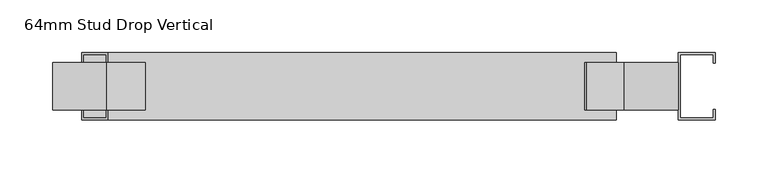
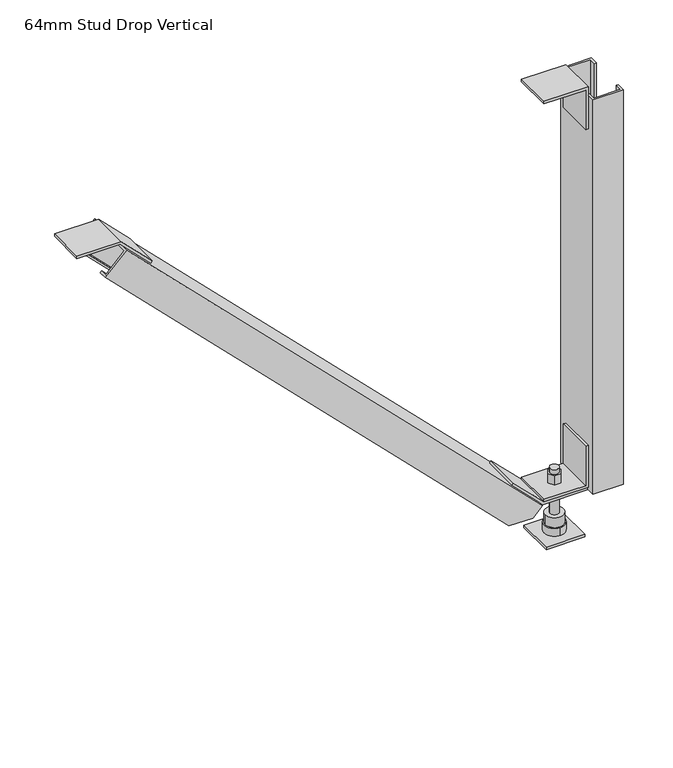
"""IFC4 building model written with IfcOpenShell, lengths in millimetres: beam geometry, Vertibrace Standard Brace : 64mm Stud Drop Vertical."""

from ifc_helpers import new_model, si_unit, frame, origin, origin_with_axes, place, context, project, spatial, polyline, circle_curve, outline, extrude, faceted_brep, source, transform, mapped, element, save
from ifc_brep_helpers import plane_surface, cylinder_surface, advanced_brep


def beam_64mm_stud_drop_vertical_b8a65905(model_context):
    return source(origin(), model_context, "Body", "SolidModel", [
        extrude(outline(polyline([(547.0013294, 23.235654), (498.7734408, 23.235654), (498.7734408, 26.2343246), (550.0, 26.2343246), (550.0, -24.9922346), (547.0013294, -24.9922346), (547.0013294, 23.235654)])), frame((0.0, -22.5, 0.0), z_axis=(0.0, 1.0, 0.0), x_axis=(0.0, 0.0, 1.0)), (0.0, 0.0, 1.0), 45.0),
        extrude(outline(polyline([(547.0013294, -516.535654), (511.6569723, -481.1912969), (513.7773526, -479.0709166), (550.0, -515.293564), (550.0, -566.5201232), (547.0013294, -566.5201232), (547.0013294, -516.535654)])), frame((0.0, -22.5, 0.0), z_axis=(0.0, 1.0, 0.0), x_axis=(0.0, 0.0, 1.0)), (0.0, 0.0, 1.0), 45.0),
        extrude(outline(polyline([(62.6986706, 23.235654), (62.6986706, -24.9922346), (59.7, -24.9922346), (59.7, 26.2343246), (110.9265592, 26.2343246), (110.9265592, 23.235654), (62.6986706, 23.235654)])), frame((0.0, -22.5, 0.0), z_axis=(0.0, 1.0, 0.0), x_axis=(0.0, 0.0, 1.0)), (0.0, 0.0, 1.0), 45.0),
        extrude(outline(polyline([(59.6986706, -24.9922346), (95.0430277, -60.3365917), (92.9226474, -62.456972), (56.7, -26.2343246), (56.7, 24.9922346), (59.6986706, 24.9922346), (59.6986706, -24.9922346)])), frame((0.0, -22.5, 0.0), z_axis=(0.0, 1.0, 0.0), x_axis=(0.0, 0.0, 1.0)), (0.0, 0.0, 1.0), 45.0),
        extrude(outline(polyline([(22.5, 22.5), (22.5, -22.5), (-22.5, -22.5), (-22.5, 22.5), (22.5, 22.5)])), origin_with_axes(), (0.0, 0.0, 1.0), 3.0),
        advanced_brep(
        [(-5.0, 0.0, -10.0), (5.0, 0.0, -10.0), (-5.0, 0.0, 80.0), (5.0, 0.0, 80.0), (5.0, 0.0, 3.0), (-5.0, 0.0, 3.0), (-5.0, 0.0, 74.4), (5.0, 0.0, 74.4), (-5.0, 0.0, 25.0), (5.0, 0.0, 25.0), (5.0, 0.0, 50.0), (-5.0, 0.0, 50.0), (5.0, 0.0, 62.7), (-5.0, 0.0, 62.7), (-5.0, 0.0, 56.7), (5.0, 0.0, 56.7), (-10.5, 0.0, 25.0), (10.5, 0.0, 25.0), (-10.5, 0.0, 13.0), (10.5, 0.0, 13.0), (0.0, -12.0, 13.0), (0.0, 12.0, 13.0), (3.75, 6.4951905, 74.4), (-3.75, 6.4951905, 74.4), (-7.5, 0.0, 74.4), (-3.75, -6.4951905, 74.4), (3.75, -6.4951905, 74.4), (7.5, 0.0, 74.4), (3.75, 6.4951905, 62.7), (7.5, 0.0, 62.7), (3.75, -6.4951905, 62.7), (-3.75, -6.4951905, 62.7), (-7.5, 0.0, 62.7), (-3.75, 6.4951905, 62.7), (-10.9696551, 0.0, 56.7), (-5.4848276, -9.5, 56.7), (5.4848276, -9.5, 56.7), (10.9696551, 0.0, 56.7), (5.4848276, 9.5, 56.7), (-5.4848276, 9.5, 56.7), (-10.9696551, 0.0, 50.0), (-5.4848276, 9.5, 50.0), (5.4848276, 9.5, 50.0), (10.9696551, 0.0, 50.0), (5.4848276, -9.5, 50.0), (-5.4848276, -9.5, 50.0), (0.0, -12.0, 3.0), (0.0, 12.0, 3.0)],
        [
            (0, 1, circle_curve(frame((0.0, 0.0, -10.0), z_axis=(0.0, 0.0, -1.0), x_axis=(1.0, 0.0, 0.0)), 5.0)),
            (1, 0, circle_curve(frame((0.0, 0.0, -10.0), z_axis=(0.0, 0.0, -1.0), x_axis=(1.0, 0.0, 0.0)), 5.0)),
            (2, 3, circle_curve(frame((0.0, 0.0, 80.0), z_axis=(0.0, 0.0, 1.0), x_axis=(1.0, 0.0, 0.0)), 5.0)),
            (3, 2, circle_curve(frame((0.0, 0.0, 80.0), z_axis=(0.0, 0.0, 1.0), x_axis=(1.0, 0.0, 0.0)), 5.0)),
            (1, 4),
            (4, 5, circle_curve(frame((0.0, 0.0, 3.0), z_axis=(0.0, 0.0, -1.0), x_axis=(1.0, 0.0, 0.0)), 5.0)),
            (5, 0),
            (2, 6),
            (6, 7, circle_curve(frame((0.0, 0.0, 74.4), z_axis=(0.0, 0.0, 1.0), x_axis=(1.0, 0.0, 0.0)), 5.0)),
            (7, 3),
            (8, 9, circle_curve(frame((0.0, 0.0, 25.0), z_axis=(0.0, 0.0, 1.0), x_axis=(1.0, 0.0, 0.0)), 5.0)),
            (9, 10),
            (10, 11, circle_curve(frame((0.0, 0.0, 50.0), z_axis=(0.0, 0.0, -1.0), x_axis=(1.0, 0.0, 0.0)), 5.0)),
            (11, 8),
            (12, 13, circle_curve(frame((0.0, 0.0, 62.7), z_axis=(0.0, 0.0, -1.0), x_axis=(1.0, 0.0, 0.0)), 5.0)),
            (13, 14),
            (14, 15, circle_curve(frame((0.0, 0.0, 56.7), z_axis=(0.0, 0.0, 1.0), x_axis=(1.0, 0.0, 0.0)), 5.0)),
            (15, 12),
            (5, 4, circle_curve(frame((0.0, 0.0, 3.0), z_axis=(0.0, 0.0, -1.0), x_axis=(1.0, 0.0, 0.0)), 5.0)),
            (7, 6, circle_curve(frame((0.0, 0.0, 74.4), z_axis=(0.0, 0.0, 1.0), x_axis=(1.0, 0.0, 0.0)), 5.0)),
            (9, 8, circle_curve(frame((0.0, 0.0, 25.0), z_axis=(0.0, 0.0, 1.0), x_axis=(1.0, 0.0, 0.0)), 5.0)),
            (11, 10, circle_curve(frame((0.0, 0.0, 50.0), z_axis=(0.0, 0.0, -1.0), x_axis=(1.0, 0.0, 0.0)), 5.0)),
            (13, 12, circle_curve(frame((0.0, 0.0, 62.7), z_axis=(0.0, 0.0, -1.0), x_axis=(1.0, 0.0, 0.0)), 5.0)),
            (15, 14, circle_curve(frame((0.0, 0.0, 56.7), z_axis=(0.0, 0.0, 1.0), x_axis=(1.0, 0.0, 0.0)), 5.0)),
            (16, 17, circle_curve(frame((0.0, 0.0, 25.0), z_axis=(0.0, 0.0, 1.0), x_axis=(1.0, 0.0, 0.0)), 10.5)),
            (17, 16, circle_curve(frame((0.0, 0.0, 25.0), z_axis=(0.0, 0.0, 1.0), x_axis=(1.0, 0.0, 0.0)), 10.5)),
            (16, 18),
            (18, 19, circle_curve(frame((0.0, 0.0, 13.0), z_axis=(0.0, 0.0, 1.0), x_axis=(1.0, 0.0, 0.0)), 10.5)),
            (19, 17),
            (19, 18, circle_curve(frame((0.0, 0.0, 13.0), z_axis=(0.0, 0.0, 1.0), x_axis=(1.0, 0.0, 0.0)), 10.5)),
            (20, 21, circle_curve(frame((0.0, 0.0, 13.0), z_axis=(0.0, 0.0, 1.0), x_axis=(0.0, 1.0, 0.0)), 12.0)),
            (21, 20, circle_curve(frame((0.0, 0.0, 13.0), z_axis=(0.0, 0.0, 1.0), x_axis=(0.0, 1.0, 0.0)), 12.0)),
            (22, 23),
            (23, 24),
            (24, 25),
            (25, 26),
            (26, 27),
            (27, 22),
            (28, 29),
            (29, 30),
            (30, 31),
            (31, 32),
            (32, 33),
            (33, 28),
            (22, 28),
            (33, 23),
            (32, 24),
            (31, 25),
            (30, 26),
            (29, 27),
            (34, 35),
            (35, 36),
            (36, 37),
            (37, 38),
            (38, 39),
            (39, 34),
            (40, 41),
            (41, 42),
            (42, 43),
            (43, 44),
            (44, 45),
            (45, 40),
            (34, 40),
            (45, 35),
            (44, 36),
            (43, 37),
            (42, 38),
            (41, 39),
            (46, 47, circle_curve(frame((0.0, 0.0, 3.0), z_axis=(0.0, 0.0, -1.0), x_axis=(0.0, 1.0, 0.0)), 12.0)),
            (47, 46, circle_curve(frame((0.0, 0.0, 3.0), z_axis=(0.0, 0.0, -1.0), x_axis=(0.0, 1.0, 0.0)), 12.0)),
            (47, 21),
            (20, 46),
        ],
        [
            plane_surface(frame((5.0, 0.0, -10.0), z_axis=(0.0, 0.0, -1.0), x_axis=(0.0, -1.0, 0.0))),
            plane_surface(frame((5.0, 0.0, 80.0), z_axis=(0.0, 0.0, 1.0), x_axis=(0.0, 1.0, 0.0))),
            cylinder_surface(frame((0.0, 0.0, -10.0), z_axis=(0.0, 0.0, 1.0), x_axis=(1.0, 0.0, 0.0)), 5.0),
            plane_surface(frame((10.5, 0.0, 25.0), z_axis=(0.0, 0.0, 1.0), x_axis=(0.0, 1.0, 0.0))),
            cylinder_surface(frame((0.0, 0.0, 13.0), z_axis=(0.0, 0.0, 1.0), x_axis=(1.0, 0.0, 0.0)), 10.5),
            plane_surface(frame((0.0, 12.0, 13.0), z_axis=(0.0, 0.0, 1.0), x_axis=(-1.0, 0.0, 0.0))),
            plane_surface(frame((3.75, 6.4951905, 74.4), z_axis=(0.0, 0.0, 1.0), x_axis=(-1.0, 0.0, 0.0))),
            plane_surface(frame((3.75, 6.4951905, 62.7), z_axis=(0.0, 0.0, -1.0), x_axis=(1.0, 0.0, 0.0))),
            plane_surface(frame((3.75, 6.4951905, 74.4), z_axis=(0.0, 1.0, 0.0), x_axis=(0.0, 0.0, -1.0))),
            plane_surface(frame((-3.75, 6.4951905, 74.4), z_axis=(-0.866025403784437, 0.5000000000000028, 0.0), x_axis=(0.0, 0.0, -1.0))),
            plane_surface(frame((-7.5, 0.0, 74.4), z_axis=(-0.8660254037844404, -0.4999999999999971, 0.0), x_axis=(0.0, 0.0, -1.0))),
            plane_surface(frame((-3.75, -6.4951905, 74.4), z_axis=(0.0, -1.0, 0.0), x_axis=(0.0, 0.0, -1.0))),
            plane_surface(frame((3.75, -6.4951905, 74.4), z_axis=(0.8660254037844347, -0.500000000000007, 0.0), x_axis=(0.0, 0.0, -1.0))),
            plane_surface(frame((7.5, 0.0, 74.4), z_axis=(0.8660254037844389, 0.49999999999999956, 0.0), x_axis=(0.0, 0.0, -1.0))),
            plane_surface(frame((-10.9696551, 0.0, 56.7), z_axis=(0.0, 0.0, 1.0), x_axis=(0.49999999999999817, -0.8660254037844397, 0.0))),
            plane_surface(frame((-10.9696551, 0.0, 50.0), z_axis=(0.0, 0.0, -1.0), x_axis=(-0.49999999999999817, 0.8660254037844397, 0.0))),
            plane_surface(frame((-10.9696551, 0.0, 56.7), z_axis=(-0.8660254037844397, -0.49999999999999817, 0.0), x_axis=(0.0, 0.0, -1.0))),
            plane_surface(frame((-5.4848276, -9.5, 56.7), z_axis=(0.0, -1.0, 0.0), x_axis=(0.0, 0.0, -1.0))),
            plane_surface(frame((5.4848276, -9.5, 56.7), z_axis=(0.8660254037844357, -0.5000000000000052, 0.0), x_axis=(0.0, 0.0, -1.0))),
            plane_surface(frame((10.9696551, 0.0, 56.7), z_axis=(0.8660254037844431, 0.49999999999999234, 0.0), x_axis=(0.0, 0.0, -1.0))),
            plane_surface(frame((5.4848276, 9.5, 56.7), z_axis=(0.0, 1.0, 0.0), x_axis=(0.0, 0.0, -1.0))),
            plane_surface(frame((-5.4848276, 9.5, 56.7), z_axis=(-0.866025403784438, 0.5000000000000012, 0.0), x_axis=(0.0, 0.0, -1.0))),
            plane_surface(frame((0.0, 12.0, 3.0), z_axis=(0.0, 0.0, -1.0), x_axis=(1.0, 0.0, 0.0))),
            cylinder_surface(frame((0.0, 0.0, 3.0), z_axis=(0.0, 0.0, 1.0), x_axis=(0.0, 1.0, 0.0)), 12.0),
        ],
        [
            (0, [[1, 2]]),
            (1, [[3, 4]]),
            (2, [[-2, 5, 6, 7]]),
            (2, [[-3, 8, 9, 10]]),
            (2, [[11, 12, 13, 14]]),
            (2, [[15, 16, 17, 18]]),
            (2, [[-1, -7, 19, -5]]),
            (2, [[-4, -10, 20, -8]]),
            (2, [[21, -14, 22, -12]]),
            (2, [[23, -18, 24, -16]]),
            (3, [[25, 26], [-11, -21]]),
            (4, [[-25, 27, 28, 29]]),
            (4, [[-26, -29, 30, -27]]),
            (5, [[31, 32], [-28, -30]]),
            (6, [[33, 34, 35, 36, 37, 38], [-9, -20]]),
            (7, [[39, 40, 41, 42, 43, 44], [-15, -23]]),
            (8, [[-33, 45, -44, 46]]),
            (9, [[-34, -46, -43, 47]]),
            (10, [[-35, -47, -42, 48]]),
            (11, [[-36, -48, -41, 49]]),
            (12, [[-37, -49, -40, 50]]),
            (13, [[-38, -50, -39, -45]]),
            (14, [[51, 52, 53, 54, 55, 56], [-17, -24]]),
            (15, [[57, 58, 59, 60, 61, 62], [-13, -22]]),
            (16, [[-51, 63, -62, 64]]),
            (17, [[-52, -64, -61, 65]]),
            (18, [[-53, -65, -60, 66]]),
            (19, [[-54, -66, -59, 67]]),
            (20, [[-55, -67, -58, 68]]),
            (21, [[-56, -68, -57, -63]]),
            (22, [[69, 70], [-6, -19]]),
            (23, [[-70, 71, -31, 72]]),
            (23, [[-69, -72, -32, -71]]),
        ],
    ),
        extrude(outline(polyline([(26.2343246, 32.0), (61.2343246, 32.0), (61.2343246, 22.0), (59.2343246, 22.0), (59.2343246, 30.0), (28.2343246, 30.0), (28.2343246, -30.0), (59.2343246, -30.0), (59.2343246, -22.0), (61.2343246, -22.0), (61.2343246, -32.0), (26.2343246, -32.0), (26.2343246, 32.0)])), frame((0.0, 0.0, 56.7), z_axis=(0.0, 0.0, 1.0), x_axis=(1.0, 0.0, 0.0)), (0.0, 0.0, 1.0), 483.3),
        faceted_brep([(-33.9485382, -30.0, 61.5857864), (-33.9485382, 30.0, 61.5857864), (-43.5343246, 30.0, 52.0), (-43.5343246, 32.0, 52.0), (-32.5343246, 32.0, 63.0), (-32.5343246, -32.0, 63.0), (-43.5343246, -32.0, 52.0), (-43.5343246, -30.0, 52.0), (-514.4883773, -32.0, 544.9540527), (-514.4883773, 32.0, 544.9540527), (-539.2371147, 32.0, 520.2053154), (-539.2371147, 22.0, 520.2053154), (-537.8229011, 22.0, 521.6195289), (-537.8229011, 30.0, 521.6195289), (-515.9025909, 30.0, 543.5398392), (-515.9025909, -30.0, 543.5398392), (-537.8229011, -30.0, 521.6195289), (-537.8229011, -22.0, 521.6195289), (-539.2371147, -22.0, 520.2053154), (-539.2371147, -32.0, 520.2053154), (-71.0317993, -32.0, 52.0), (-71.0317993, -22.0, 52.0), (-71.0317993, 32.0, 52.0), (-68.2033722, 30.0, 52.0), (-68.2033722, 22.0, 52.0), (-71.0317993, 22.0, 52.0), (-68.2033722, -22.0, 52.0), (-68.2033722, -30.0, 52.0)], [[[0, 1, 2, 3, 4, 5, 6, 7]], [[8, 9, 10, 11, 12, 13, 14, 15, 16, 17, 18, 19]], [[8, 19, 20, 6, 5]], [[19, 18, 21, 20]], [[10, 9, 4, 3, 22]], [[5, 4, 9, 8]], [[3, 2, 23, 24, 25, 22]], [[7, 6, 20, 21, 26, 27]], [[18, 17, 26, 21]], [[17, 16, 27, 26]], [[16, 15, 0, 7, 27]], [[1, 0, 15, 14]], [[14, 13, 23, 2, 1]], [[13, 12, 24, 23]], [[12, 11, 25, 24]], [[11, 10, 22, 25]]]),
    ])


if __name__ == "__main__":
    model = new_model("IFC4")
    model_context = context("Model", 3, world=origin())
    ifc_project = project(units=[si_unit("LENGTHUNIT", "METRE", prefix="MILLI")], contexts=[model_context])
    site = spatial("IfcSite", under=ifc_project)
    building = spatial("IfcBuilding", under=site)
    placement = place(None, origin())
    beam_64mm_stud_drop_vertical_shape = beam_64mm_stud_drop_vertical_b8a65905(model_context)
    element("IfcBeam", 1, ObjectType="Vertibrace Standard Brace : 64mm Stud Drop Vertical", at=placement, inside=building, context=model_context, shape_type="MappedRepresentation", body=[
        mapped(beam_64mm_stud_drop_vertical_shape, transform((0.0, 0.0, 0.0), x_axis=(1.0, 0.0, 0.0), y_axis=(0.0, 1.0, 0.0), z_axis=(0.0, 0.0, 1.0))),
    ])
    save(model, "model.ifc")
